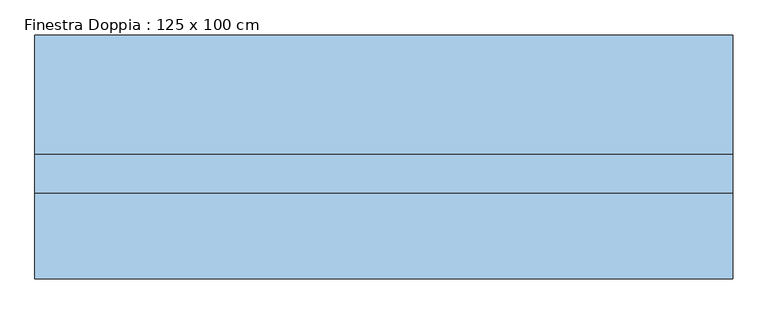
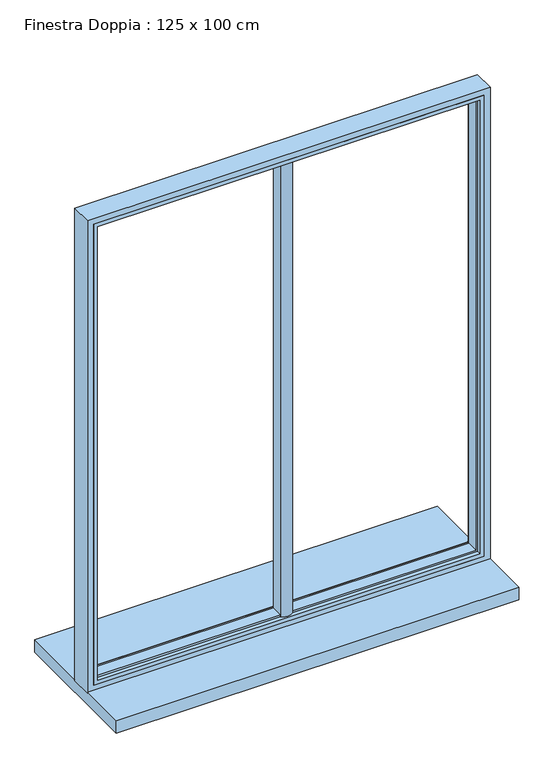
"""IFC4 building model written with IfcOpenShell, lengths in millimetres: window geometry, Finestra Doppia : 125 x 100 cm."""

import ifcopenshell
import ifcopenshell.guid

model = None  # the IFC model being written
_history = None  # IfcOwnerHistory: only IFC2X3 demands one
_inside = {}  # id of a spatial element -> (the spatial element, [elements in it])
_under = {}  # id of a project, library or spatial element -> (it, [spatial elements below it])
_declared = {}  # id of a project -> (the project, [libraries it declares])
_typed = {}  # id of a type object -> (the type object, [elements of that type])
_made_of = {}  # id of a material, layer set ... -> (it, [elements and type objects made of it])


def new_model(schema):
    """Start an empty IFC model of exactly this schema.

    Asked for "IFC4X3", IfcOpenShell would pick the latest addendum, in which some entities
    have other attributes; the version numbers below select the first issue.
    IFC2X3 requires an IfcOwnerHistory on every rooted entity: one is made here for all.
    """
    global model, _history
    if schema == "IFC4X3":
        model = ifcopenshell.file(schema_version=(4, 3, 0, 0))
    else:
        model = ifcopenshell.file(schema=schema)
    _inside.clear()
    _under.clear()
    _declared.clear()
    _typed.clear()
    _made_of.clear()
    _history = None
    if model.schema == "IFC2X3":
        org = make("IfcOrganization", Name="unknown")
        user = make(
            "IfcPersonAndOrganization",
            ThePerson=make("IfcPerson", FamilyName="unknown"),
            TheOrganization=org,
        )
        app = make(
            "IfcApplication",
            ApplicationDeveloper=org,
            Version="unknown",
            ApplicationFullName="unknown",
            ApplicationIdentifier="unknown",
        )
        _history = make(
            "IfcOwnerHistory",
            OwningUser=user,
            OwningApplication=app,
            ChangeAction="ADDED",
            CreationDate=0,
        )
    return model


def make(cls, **values):
    """One entity of the class cls with the attributes given. An attribute that is None is left unset."""
    return model.create_entity(
        cls, **{name: value for name, value in values.items() if value is not None}
    )


def rooted(cls, **values):
    """An entity with a GlobalId (a new one), such as an element, a storey or a relation."""
    return make(cls, GlobalId=ifcopenshell.guid.new(), OwnerHistory=_history, **values)


def si_unit(unit_type, name, prefix=None):
    """IfcSIUnit, for example si_unit("LENGTHUNIT", "METRE", prefix="MILLI")."""
    return make("IfcSIUnit", UnitType=unit_type, Prefix=prefix, Name=name)


def assignment(units):
    """IfcUnitAssignment: the units of a project."""
    return None if units is None else make("IfcUnitAssignment", Units=units)


def point(xyz):
    """IfcCartesianPoint."""
    return None if xyz is None else make("IfcCartesianPoint", Coordinates=xyz)


def direction(xyz):
    """IfcDirection."""
    return None if xyz is None else make("IfcDirection", DirectionRatios=xyz)


def frame(location, z_axis=None, x_axis=None):
    """IfcAxis2Placement3D, a coordinate frame: its origin and axes. An axis left out is left unset."""
    return make(
        "IfcAxis2Placement3D",
        Location=point(location),
        Axis=direction(z_axis),
        RefDirection=direction(x_axis),
    )


def frame_2d(location, x_axis=None):
    """IfcAxis2Placement2D, a coordinate frame in the plane: its origin and x axis."""
    return make(
        "IfcAxis2Placement2D", Location=point(location), RefDirection=direction(x_axis)
    )


def origin():
    """The frame at (0, 0, 0) with its axes left unset."""
    return frame((0.0, 0.0, 0.0))


def place(relative_to, where):
    """IfcLocalPlacement: puts the frame where relative to a parent placement (None: the world)."""
    return make(
        "IfcLocalPlacement", PlacementRelTo=relative_to, RelativePlacement=where
    )


def context(
    kind, dimensions, precision=None, world=None, true_north=None, identifier=None
):
    """IfcGeometricRepresentationContext, for example the 3D "Model" context."""
    return make(
        "IfcGeometricRepresentationContext",
        ContextIdentifier=identifier,
        ContextType=kind,
        CoordinateSpaceDimension=dimensions,
        Precision=precision,
        WorldCoordinateSystem=world,
        TrueNorth=true_north,
    )


def project(units=None, contexts=None):
    """IfcProject with its units and contexts."""
    return rooted(
        "IfcProject",
        Name="project",
        RepresentationContexts=contexts,
        UnitsInContext=assignment(units),
    )


def spatial(cls, under=None, at=None, **own):
    """A site, building, storey or space (cls), placed at a placement, below another one or the project."""
    s = rooted(cls, ObjectPlacement=at, **own)
    if under is not None:
        _under.setdefault(under.id(), (under, []))[1].append(s)
    return s


def polyline(points):
    """IfcPolyline through the points."""
    return make("IfcPolyline", Points=[point(p) for p in points])


def circle_curve(where, radius):
    """IfcCircle in the frame where."""
    return make("IfcCircle", Position=where, Radius=radius)


def ellipse_curve(where, semi_axis1, semi_axis2):
    """IfcEllipse in the frame where."""
    return make(
        "IfcEllipse", Position=where, SemiAxis1=semi_axis1, SemiAxis2=semi_axis2
    )


def trimmed(basis, trim1, trim2, sense, master):
    """IfcTrimmedCurve: the piece of a basis curve between two trims."""
    return make(
        "IfcTrimmedCurve",
        BasisCurve=basis,
        Trim1=trim1,
        Trim2=trim2,
        SenseAgreement=sense,
        MasterRepresentation=master,
    )


def segment(curve, same_sense, transition):
    """IfcCompositeCurveSegment."""
    return make(
        "IfcCompositeCurveSegment",
        Transition=transition,
        SameSense=same_sense,
        ParentCurve=curve,
    )


def composite_curve(segments, self_intersect=None):
    """IfcCompositeCurve: segments joined end to end."""
    return make("IfcCompositeCurve", Segments=segments, SelfIntersect=self_intersect)


def outline(outer, holes=None, kind="AREA"):
    """IfcArbitraryClosedProfileDef: a profile drawn as a closed curve; with holes, ...WithVoids."""
    if holes is None:
        return make("IfcArbitraryClosedProfileDef", ProfileType=kind, OuterCurve=outer)
    return make(
        "IfcArbitraryProfileDefWithVoids",
        ProfileType=kind,
        OuterCurve=outer,
        InnerCurves=holes,
    )


def extrude(swept, where, along, depth):
    """IfcExtrudedAreaSolid: the profile swept, set in the frame where, extruded along a direction by depth."""
    return make(
        "IfcExtrudedAreaSolid",
        SweptArea=swept,
        Position=where,
        ExtrudedDirection=direction(along),
        Depth=depth,
    )


def faces_of(points, faces, orient=None, outer=None):
    """IfcFace entities. A face is a list of loops; a loop is a list of indices into points, from 0.

    orient and outer hold one flag for each loop. By default every Orientation is true, the
    first loop of a face is its IfcFaceOuterBound and the others are IfcFaceBound.
    """
    made = []
    for i, loops in enumerate(faces):
        bounds = []
        for j, loop in enumerate(loops):
            is_outer = j == 0 if outer is None else outer[i][j]
            bounds.append(
                make(
                    "IfcFaceOuterBound" if is_outer else "IfcFaceBound",
                    Bound=make("IfcPolyLoop", Polygon=[points[k] for k in loop]),
                    Orientation=True if orient is None else orient[i][j],
                )
            )
        made.append(make("IfcFace", Bounds=bounds))
    return made


def faceted_brep(points, faces, orient=None, outer=None, voids=None):
    """IfcFacetedBrep: a solid bounded by flat faces; with voids (closed shells), ...WithVoids."""
    shared = [point(p) for p in points]
    hull = make("IfcClosedShell", CfsFaces=faces_of(shared, faces, orient, outer))
    if voids is None:
        return make("IfcFacetedBrep", Outer=hull)
    return make(
        "IfcFacetedBrepWithVoids",
        Outer=hull,
        Voids=[
            make(cls, CfsFaces=faces_of(shared, fs, o, b)) for cls, fs, o, b in voids
        ],
    )


def shape(context_of_items, identifier, shape_type, items):
    """IfcShapeRepresentation: the items that make up one representation, for example the "Body"."""
    return make(
        "IfcShapeRepresentation",
        ContextOfItems=context_of_items,
        RepresentationIdentifier=identifier,
        RepresentationType=shape_type,
        Items=items,
    )


def source(mapping_origin, context_of_items, identifier, shape_type, items):
    """IfcRepresentationMap: a shape defined once, which mapped items show again and again."""
    return make(
        "IfcRepresentationMap",
        MappingOrigin=mapping_origin,
        MappedRepresentation=shape(context_of_items, identifier, shape_type, items),
    )


def transform(
    local_origin,
    x_axis=None,
    y_axis=None,
    z_axis=None,
    scale=None,
    scale2=None,
    scale3=None,
    uniform=True,
):
    """IfcCartesianTransformationOperator3D, or its non-uniform kind. x_axis, y_axis, z_axis: its Axis1, 2, 3."""
    if uniform:
        return make(
            "IfcCartesianTransformationOperator3D",
            Axis1=direction(x_axis),
            Axis2=direction(y_axis),
            LocalOrigin=point(local_origin),
            Scale=scale,
            Axis3=direction(z_axis),
        )
    return make(
        "IfcCartesianTransformationOperator3DnonUniform",
        Axis1=direction(x_axis),
        Axis2=direction(y_axis),
        LocalOrigin=point(local_origin),
        Scale=scale,
        Axis3=direction(z_axis),
        Scale2=scale2,
        Scale3=scale3,
    )


def mapped(mapping_source, mapping_target):
    """IfcMappedItem: shows the shape of a source again, moved by a transform."""
    return make(
        "IfcMappedItem", MappingSource=mapping_source, MappingTarget=mapping_target
    )


def made_of(thing, what):
    """Note that an element or type object is made of a material, layer set ...; save() writes the relation."""
    if what is not None:
        _made_of.setdefault(what.id(), (what, []))[1].append(thing)
    return thing


def element(
    cls,
    number,
    at=None,
    inside=None,
    cuts=None,
    type_object=None,
    material=None,
    context=None,
    identifier="Body",
    shape_type=None,
    held_by="IfcProductDefinitionShape",
    body=None,
    shapes=None,
    **own,
):
    """One element of the class cls, such as IfcWall. Its Tag is "e" and its number.

    at: its placement. inside: the storey or other place that contains it. cuts: it is an
    opening in that element (IfcRelVoidsElement). A single representation is given by context,
    identifier, shape_type and body (its items); several are given by shapes. held_by: the class
    of the entity that holds the representations. save() writes the other relations.
    """
    e = rooted(cls, Tag="e%d" % number, ObjectPlacement=at, **own)
    if body is not None:
        shapes = [shape(context, identifier, shape_type, body)]
    if shapes is not None:
        e.Representation = make(held_by, Representations=shapes)
    if inside is not None:
        _inside.setdefault(inside.id(), (inside, []))[1].append(e)
    if cuts is not None:
        rooted(
            "IfcRelVoidsElement", RelatingBuildingElement=cuts, RelatedOpeningElement=e
        )
    if type_object is not None:
        _typed.setdefault(type_object.id(), (type_object, []))[1].append(e)
    return made_of(e, material)


def aggregate(whole, parts):
    """IfcRelAggregates: a whole, such as a stair, and the parts it consists of."""
    return rooted("IfcRelAggregates", RelatingObject=whole, RelatedObjects=parts)


def save(model, path):
    """Write the relations noted so far, then the file.

    IfcRelAggregates (storeys below a building ...), IfcRelContainedInSpatialStructure (elements
    in a storey), IfcRelDefinesByType, IfcRelAssociatesMaterial and IfcRelDeclares: one each for
    every whole, place, type object, material and project.
    """
    for whole, parts in _under.values():
        aggregate(whole, parts)
    for where, things in _inside.values():
        rooted(
            "IfcRelContainedInSpatialStructure",
            RelatedElements=things,
            RelatingStructure=where,
        )
    for kind, things in _typed.values():
        rooted("IfcRelDefinesByType", RelatedObjects=things, RelatingType=kind)
    for what, things in _made_of.values():
        rooted("IfcRelAssociatesMaterial", RelatedObjects=things, RelatingMaterial=what)
    for by, libraries in _declared.values():
        rooted("IfcRelDeclares", RelatingContext=by, RelatedDefinitions=libraries)
    model.write(path)


def plane_surface(at):
    """IfcPlane: the flat surface through the origin of the frame at, square to its z axis."""
    return make("IfcPlane", Position=at)


def cylinder_surface(at, radius):
    """IfcCylindricalSurface: all points at the distance radius from the z axis of the frame at."""
    return make("IfcCylindricalSurface", Position=at, Radius=radius)


def advanced_brep(points, edges, surfaces, faces):
    """IfcAdvancedBrep: a solid bounded by faces that lie on surfaces and meet in shared edges.

    An edge is (start, end): straight between two places in points (the first is 0);
    or (start, end, curve); or (start, end, curve, False) where it runs against its curve.
    A face is (place in surfaces, loops), or (place, loops, False) where it looks against
    its surface's normal. A loop lists edges by number (the first is 1), with a minus sign
    where the edge is run from its end to its start. The first loop is the outer one.
    """
    corners = [point(p) for p in points]
    vertices = [make("IfcVertexPoint", VertexGeometry=c) for c in corners]
    made = []
    for start, end, *more in edges:
        made.append(
            make(
                "IfcEdgeCurve",
                EdgeStart=vertices[start],
                EdgeEnd=vertices[end],
                EdgeGeometry=more[0] if more else make("IfcPolyline", Points=[corners[start], corners[end]]),
                SameSense=more[1] if len(more) > 1 else True,
            )
        )
    hull = []
    for where, loops, *sense in faces:
        bounds = []
        for j, loop in enumerate(loops):
            ring = [make("IfcOrientedEdge", EdgeElement=made[abs(k) - 1], Orientation=k > 0) for k in loop]
            bounds.append(
                make(
                    "IfcFaceOuterBound" if j == 0 else "IfcFaceBound",
                    Bound=make("IfcEdgeLoop", EdgeList=ring),
                    Orientation=True,
                )
            )
        hull.append(make("IfcAdvancedFace", Bounds=bounds, FaceSurface=surfaces[where], SameSense=sense[0] if sense else True))
    return make("IfcAdvancedBrep", Outer=make("IfcClosedShell", CfsFaces=hull))


def finestra_doppia_125_x_100_cm_3431f0ed(model_context):
    return source(origin(), model_context, "Body", "SolidModel", [
        extrude(outline(composite_curve([segment(polyline([(-15.0, -10.0), (-15.0, 20.0)]), True, "CONTINUOUS"), segment(trimmed(circle_curve(frame_2d((0.0, 7.0384974)), 19.8242415), [point((-15.0, 20.0))], [point((15.0, 20.0))], False, "CARTESIAN"), True, "CONTINUOUS"), segment(polyline([(15.0, 20.0), (15.0, -10.0)]), True, "CONTINUOUS"), segment(trimmed(circle_curve(frame_2d((0.0, 5.6850663)), 21.7030253), [point((15.0, -10.0))], [point((-15.0, -10.0))], False, "CARTESIAN"), True, "CONTINUOUS")], self_intersect=False)), frame((0.0, 0.0, 1000.0), z_axis=(0.0, 0.0, 1.0), x_axis=(1.0, 0.0, 0.0)), (0.0, 0.0, 1.0), 1215.0349779),
        faceted_brep([(-485.0, -20.0, 2225.0349779), (-485.0, 20.0, 2225.0349779), (-485.0, 20.0, 1015.0), (-485.0, -20.0, 1015.0), (485.0, 20.0, 2225.0349779), (485.0, 20.0, 1015.0), (-470.0, 20.0, 2210.0349779), (-470.0, 20.0, 1030.0), (470.0, 20.0, 1030.0), (470.0, 20.0, 2210.0349779), (485.0, -20.0, 1015.0), (485.0, -20.0, 2225.0349779), (475.0, -20.0, 2215.0349779), (475.0, -20.0, 1025.0), (-475.0, -20.0, 1025.0), (-475.0, -20.0, 2215.0349779), (-475.0, -10.0, 2215.0349779), (-475.0, -10.0, 1025.0), (475.0, -10.0, 1025.0), (475.0, -10.0, 2215.0349779), (470.0, -10.0, 2210.0349779), (470.0, -10.0, 1030.0), (-470.0, -10.0, 1030.0), (-470.0, -10.0, 2210.0349779)], [[[0, 1, 2, 3]], [[4, 5, 2, 1], [6, 7, 8, 9]], [[3, 2, 5, 10]], [[0, 3, 10, 11], [12, 13, 14, 15]], [[16, 15, 14, 17]], [[17, 14, 13, 18]], [[16, 17, 18, 19], [20, 21, 22, 23]], [[6, 23, 22, 7]], [[7, 22, 21, 8]], [[10, 5, 4, 11]], [[18, 13, 12, 19]], [[8, 21, 20, 9]], [[11, 4, 1, 0]], [[19, 12, 15, 16]], [[9, 20, 23, 6]]]),
        advanced_brep(
        [(-500.0, 35.0, 2240.0), (-500.0, 35.0, 1000.0), (-500.0, -20.0, 1000.0), (-500.0, -20.0, 2240.0), (500.0, 35.0, 2240.0), (500.0, 35.0, 1000.0), (-480.0, 35.0, 1020.0), (480.0, 35.0, 1020.0), (480.0, 35.0, 2220.0), (-480.0, 35.0, 2220.0), (500.0, -20.0, 1000.0), (500.0, -20.0, 2240.0), (-485.0, -20.0, 2225.0), (485.0, -20.0, 2225.0), (485.0, -20.0, 1015.0), (-485.0, -20.0, 1015.0), (-485.0, 20.0, 2225.0), (-485.0, 20.0, 1015.0), (485.0, 20.0, 1015.0), (485.0, 20.0, 2225.0), (-475.0, 20.0, 2215.0), (475.0, 20.0, 2215.0), (475.0, 20.0, 1025.0), (-475.0, 20.0, 1025.0), (-475.0, 30.0, 2215.0), (-475.0, 30.0, 1025.0), (475.0, 30.0, 1025.0), (475.0, 30.0, 2215.0)],
        [
            (0, 1),
            (1, 2),
            (2, 3),
            (3, 0),
            (0, 4),
            (4, 5),
            (5, 1),
            (6, 7),
            (7, 8),
            (8, 9),
            (9, 6),
            (5, 10),
            (10, 2),
            (10, 11),
            (11, 3),
            (12, 13),
            (13, 14),
            (14, 15),
            (15, 12),
            (16, 12),
            (15, 17),
            (17, 16),
            (14, 18),
            (18, 17),
            (18, 19),
            (19, 16),
            (20, 21),
            (21, 22),
            (22, 23),
            (23, 20),
            (24, 20),
            (23, 25),
            (25, 24),
            (22, 26),
            (26, 25),
            (9, 24, ellipse_curve(frame((-480.0, 30.0, 2220.0), z_axis=(-0.7071067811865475, 0.0, -0.7071067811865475), x_axis=(-0.7071067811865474, 0.0, 0.7071067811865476)), 7.0710678, 5.0)),
            (25, 6, ellipse_curve(frame((-480.0, 30.0, 1020.0), z_axis=(-0.7071067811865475, 0.0, 0.7071067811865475), x_axis=(0.7071067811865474, 0.0, 0.7071067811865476)), 7.0710678, 5.0)),
            (26, 7, ellipse_curve(frame((480.0, 30.0, 1020.0), z_axis=(-0.7071067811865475, 0.0, -0.7071067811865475), x_axis=(-0.7071067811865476, 0.0, 0.7071067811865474)), 7.0710678, 5.0)),
            (4, 11),
            (13, 19),
            (21, 27),
            (27, 26),
            (27, 8, ellipse_curve(frame((480.0, 30.0, 2220.0), z_axis=(0.7071067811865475, 0.0, -0.7071067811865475), x_axis=(-0.7071067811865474, 0.0, -0.7071067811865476)), 7.0710678, 5.0)),
            (24, 27),
        ],
        [
            plane_surface(frame((-500.0, 0.0, 2240.0), z_axis=(-1.0, 0.0, 0.0), x_axis=(0.0, 0.0, -1.0))),
            plane_surface(frame((480.0, 35.0, 2220.0), z_axis=(0.0, 1.0, 0.0), x_axis=(-1.0, 0.0, 0.0))),
            plane_surface(frame((-500.0, 0.0, 1000.0), z_axis=(0.0, 0.0, -1.0), x_axis=(1.0, 0.0, 0.0))),
            plane_surface(frame((500.0, -20.0, 2240.0), z_axis=(0.0, -1.0, 0.0), x_axis=(-1.0, 0.0, 0.0))),
            plane_surface(frame((-485.0, -20.0, 2225.0), z_axis=(1.0, 0.0, 0.0), x_axis=(0.0, 0.0, -1.0))),
            plane_surface(frame((-485.0, -20.0, 1015.0), z_axis=(0.0, 0.0, 1.0), x_axis=(1.0, 0.0, 0.0))),
            plane_surface(frame((485.0, 20.0, 2225.0), z_axis=(0.0, -1.0, 0.0), x_axis=(-1.0, 0.0, 0.0))),
            plane_surface(frame((-475.0, 20.0, 2215.0), z_axis=(1.0, 0.0, 0.0), x_axis=(0.0, 0.0, -1.0))),
            plane_surface(frame((-475.0, 20.0, 1025.0), z_axis=(0.0, 0.0, 1.0), x_axis=(1.0, 0.0, 0.0))),
            cylinder_surface(frame((-480.0, 30.0, 2240.0), z_axis=(0.0, 0.0, 1.0), x_axis=(1.0, 0.0, 0.0)), 5.0),
            cylinder_surface(frame((-500.0, 30.0, 1020.0), z_axis=(-1.0, 0.0, 0.0), x_axis=(0.0, 0.0, 1.0)), 5.0),
            plane_surface(frame((500.0, 0.0, 1000.0), z_axis=(1.0, 0.0, 0.0), x_axis=(0.0, 0.0, 1.0))),
            plane_surface(frame((485.0, -20.0, 1015.0), z_axis=(-1.0, 0.0, 0.0), x_axis=(0.0, 0.0, 1.0))),
            plane_surface(frame((475.0, 20.0, 1025.0), z_axis=(-1.0, 0.0, 0.0), x_axis=(0.0, 0.0, 1.0))),
            cylinder_surface(frame((480.0, 30.0, 1000.0), z_axis=(0.0, 0.0, -1.0), x_axis=(-1.0, 0.0, 0.0)), 5.0),
            plane_surface(frame((500.0, 0.0, 2240.0), z_axis=(0.0, 0.0, 1.0), x_axis=(-1.0, 0.0, 0.0))),
            plane_surface(frame((485.0, -20.0, 2225.0), z_axis=(0.0, 0.0, -1.0), x_axis=(-1.0, 0.0, 0.0))),
            plane_surface(frame((475.0, 20.0, 2215.0), z_axis=(0.0, 0.0, -1.0), x_axis=(-1.0, 0.0, 0.0))),
            cylinder_surface(frame((500.0, 30.0, 2220.0), z_axis=(1.0, 0.0, 0.0), x_axis=(0.0, 0.0, -1.0)), 5.0),
        ],
        [
            (0, [[1, 2, 3, 4]]),
            (1, [[5, 6, 7, -1], [8, 9, 10, 11]]),
            (2, [[-2, -7, 12, 13]]),
            (3, [[-13, 14, 15, -3], [16, 17, 18, 19]]),
            (4, [[20, -19, 21, 22]]),
            (5, [[-21, -18, 23, 24]]),
            (6, [[-24, 25, 26, -22], [27, 28, 29, 30]]),
            (7, [[31, -30, 32, 33]]),
            (8, [[-32, -29, 34, 35]]),
            (9, [[36, -33, 37, -11]]),
            (10, [[-37, -35, 38, -8]]),
            (11, [[-12, -6, 39, -14]]),
            (12, [[-23, -17, 40, -25]]),
            (13, [[-34, -28, 41, 42]]),
            (14, [[-38, -42, 43, -9]]),
            (15, [[-39, -5, -4, -15]]),
            (16, [[-40, -16, -20, -26]]),
            (17, [[-41, -27, -31, 44]]),
            (18, [[-43, -44, -36, -10]]),
        ],
    ),
        extrude(outline(polyline([(500.0, -143.1372612), (-500.0, -143.1372612), (-500.0, 206.8627388), (500.0, 206.8627388), (500.0, -143.1372612)])), frame((0.0, 0.0, 970.0), z_axis=(0.0, 0.0, 1.0), x_axis=(1.0, 0.0, 0.0)), (0.0, 0.0, 1.0), 33.0),
    ])


if __name__ == "__main__":
    model = new_model("IFC4")
    model_context = context("Model", 3, world=origin())
    ifc_project = project(units=[si_unit("LENGTHUNIT", "METRE", prefix="MILLI")], contexts=[model_context])
    site = spatial("IfcSite", under=ifc_project)
    building = spatial("IfcBuilding", under=site)
    placement = place(None, origin())
    finestra_doppia_125_x_100_cm_shape = finestra_doppia_125_x_100_cm_3431f0ed(model_context)
    element("IfcWindow", 1, ObjectType="Finestra Doppia : 125 x 100 cm", at=placement, inside=building, context=model_context, shape_type="MappedRepresentation", body=[
        mapped(finestra_doppia_125_x_100_cm_shape, transform((0.0, 0.0, 0.0), x_axis=(1.0, 0.0, 0.0), y_axis=(0.0, 1.0, 0.0), z_axis=(0.0, 0.0, 1.0))),
    ])
    save(model, "model.ifc")
